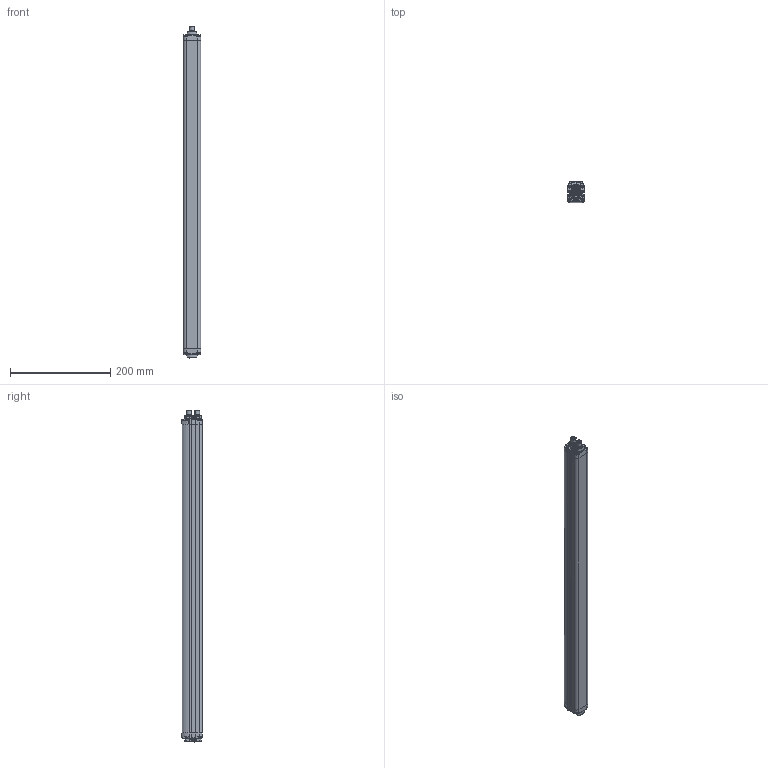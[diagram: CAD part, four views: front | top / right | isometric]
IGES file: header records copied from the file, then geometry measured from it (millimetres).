
Start section:  PTC IGES file: 2013520
Global section: file name: 2013520; native system: Pro/ENGINEER by Parametric Technology Corporation; preprocessor: 2011040; author: rink; organization: Unknown; date: 20131122.130419; units: millimetre
Bounding box: 35 x 40.94 x 662 mm (x, y, z)
Surface area: 119992.2 mm2 (no closed solid volume)
Topology: 0 solids, 0 shells, 1605 faces, 7322 edges, 7242 vertices
Faces by surface type: bspline 804, revolution 710, extrusion 91
